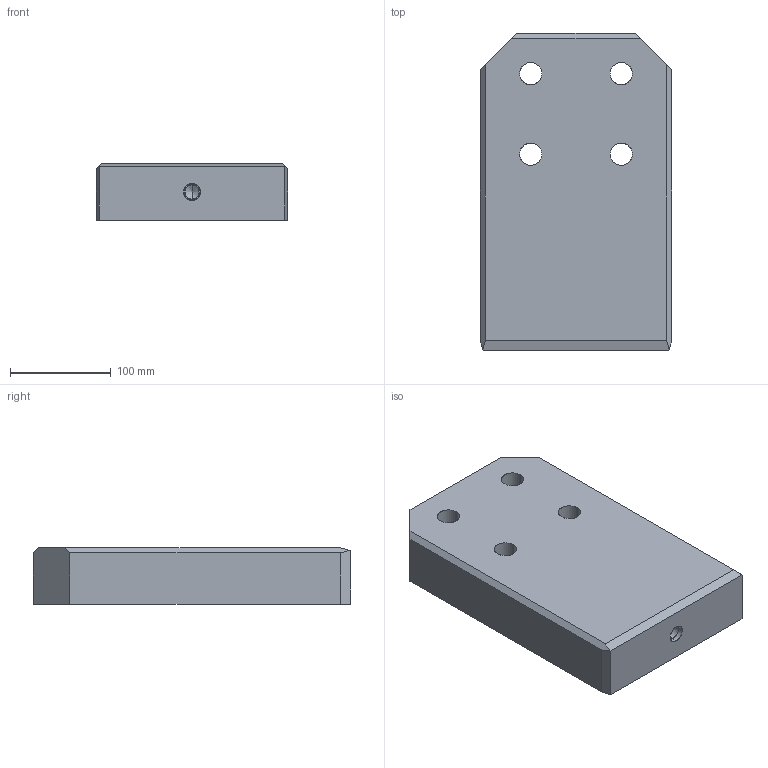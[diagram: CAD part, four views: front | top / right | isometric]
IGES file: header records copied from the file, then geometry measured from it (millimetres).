
Start section: START RECORD GO HERE.
Global section: file name: A927-190X315X56.igs; native system: DASSAULT SYSTEMES CATIA V5 R20 - www.3ds.com; preprocessor: CATIA Version 5 Release 20 ; author: Utente; organization: NB04-ASUS; date: 20200408.202143; units: millimetre
Bounding box: 190 x 315 x 56 mm (x, y, z)
Surface area: 186253.9 mm2 (no closed solid volume)
Topology: 0 solids, 0 shells, 52 faces, 242 edges, 240 vertices
Faces by surface type: revolution 32, extrusion 20
